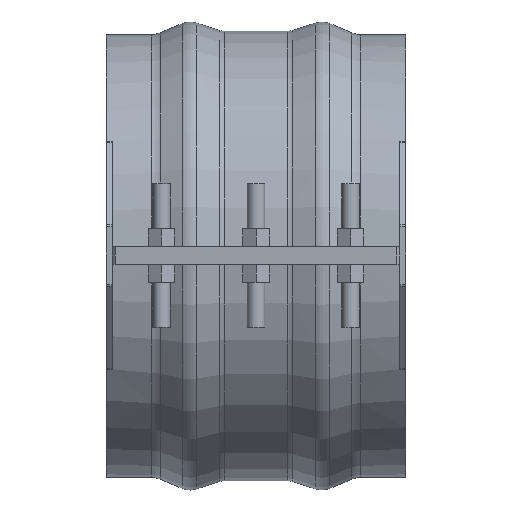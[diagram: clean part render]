
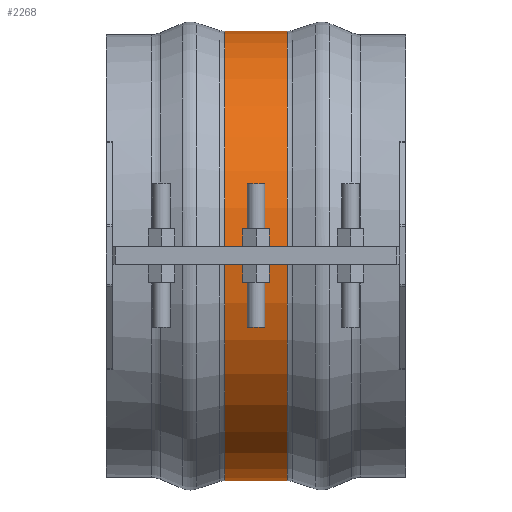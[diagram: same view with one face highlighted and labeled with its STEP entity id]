
A CAD part, top view. The second image highlights one B-rep face of the part: STEP entity #2268.
In plain terms, the highlighted cylindrical face has radius 238.427 mm (diameter 476.854 mm), a partial arc.
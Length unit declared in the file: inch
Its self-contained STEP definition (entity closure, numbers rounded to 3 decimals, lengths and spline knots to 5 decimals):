
#266=FACE_OUTER_BOUND('',#395,.T.);
#395=EDGE_LOOP('',(#1872,#1873,#1874,#1875));
#597=LINE('',#3675,#788);
#602=LINE('',#3760,#793);
#788=VECTOR('',#2968,0.3937);
#793=VECTOR('',#2977,0.3937);
#848=CIRCLE('',#2449,9.38689);
#849=CIRCLE('',#2451,9.38689);
#1054=VERTEX_POINT('',#3667);
#1055=VERTEX_POINT('',#3674);
#1066=VERTEX_POINT('',#3752);
#1067=VERTEX_POINT('',#3759);
#1333=EDGE_CURVE('',#1055,#1054,#597,.T.);
#1348=EDGE_CURVE('',#1067,#1066,#602,.T.);
#1360=EDGE_CURVE('',#1055,#1066,#848,.T.);
#1361=EDGE_CURVE('',#1054,#1067,#849,.T.);
#1872=ORIENTED_EDGE('',*,*,#1333,.T.);
#1873=ORIENTED_EDGE('',*,*,#1361,.T.);
#1874=ORIENTED_EDGE('',*,*,#1348,.T.);
#1875=ORIENTED_EDGE('',*,*,#1360,.F.);
#2053=CYLINDRICAL_SURFACE('',#2450,9.38689);
#2268=ADVANCED_FACE('',(#266),#2053,.T.);
#2449=AXIS2_PLACEMENT_3D('',#3810,#2999,#3000);
#2450=AXIS2_PLACEMENT_3D('',#3811,#3001,#3002);
#2451=AXIS2_PLACEMENT_3D('',#3812,#3003,#3004);
#2968=DIRECTION('',(-1.,0.,0.));
#2977=DIRECTION('',(1.,0.,0.));
#2999=DIRECTION('center_axis',(1.,0.,0.));
#3000=DIRECTION('ref_axis',(0.,0.,-1.));
#3001=DIRECTION('center_axis',(1.,0.,0.));
#3002=DIRECTION('ref_axis',(0.,0.,
-1.));
#3003=DIRECTION('center_axis',(1.,0.,0.));
#3004=DIRECTION('ref_axis',(0.,0.,-1.));
#3667=CARTESIAN_POINT('',(-1.31451,-0.375,9.37939));
#3674=CARTESIAN_POINT('',(1.31451,-0.375,9.37939));
#3675=CARTESIAN_POINT('',(0.,-0.375,9.37939));
#3752=CARTESIAN_POINT('',(1.31451,0.375,9.37939));
#3759=CARTESIAN_POINT('',(-1.31451,0.375,9.37939));
#3760=CARTESIAN_POINT('',(0.,0.375,9.37939));
#3810=CARTESIAN_POINT('Origin',(1.31451,0.,0.));
#3811=CARTESIAN_POINT('Origin',(0.,0.,0.));
#3812=CARTESIAN_POINT('Origin',(-1.31451,0.,
0.));
